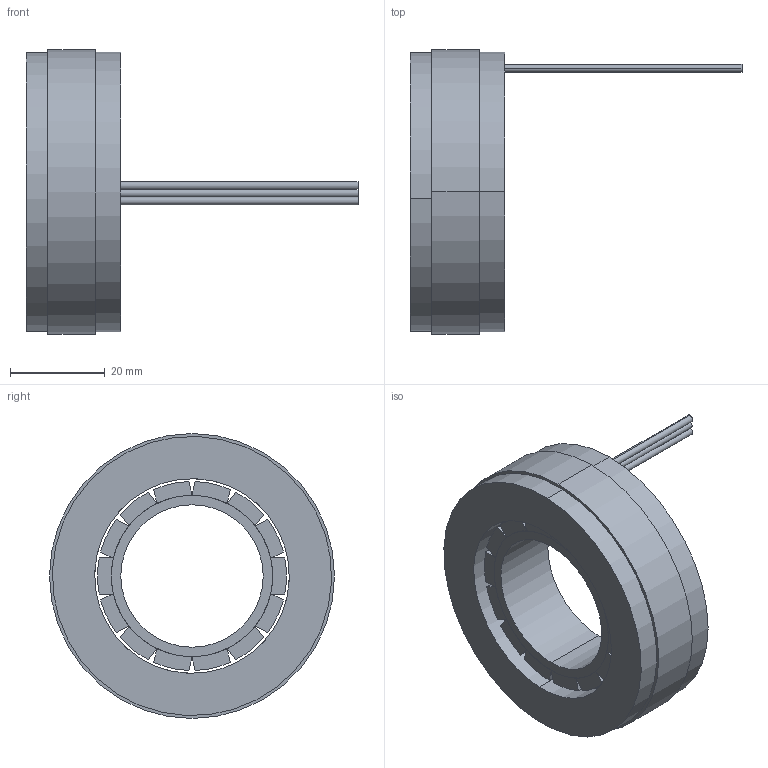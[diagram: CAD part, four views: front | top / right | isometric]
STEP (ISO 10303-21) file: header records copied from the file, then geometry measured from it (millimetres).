
FILE_DESCRIPTION (( 'STEP AP203' ), '1' );
FILE_NAME ('60LW07×°Åä.STEP', '2025-09-04T01:57:32', ( 'China' ), ( 'Microsoft' ), 'SwSTEP 2.0', 'SolidWorks 2017', '' );
FILE_SCHEMA (( 'CONFIG_CONTROL_DESIGN' ));
Length unit declared in the file: millimetre
Products named in the file (9): 60LW07蚾饜; 棠詩; 绕组出线端; 绕组非出线端; 蛌赽; 隅赽; 竘堤盄; 諾陑粣; 隅赽沺陑
Assembly tree (21 placements, depth 3):
  60LW07蚾饜
    隅赽
      隅赽沺陑
      绕组非出线端
      绕组出线端
      竘堤盄
    蛌赽
      諾陑粣
      棠詩  x14
Bounding box: 69.9 x 60 x 60 mm (x, y, z)
Volume: 36352 mm3; surface area: 23639.8 mm2
Topology: 21 solids, 21 shells, 120 faces, 234 edges, 156 vertices
Faces by surface type: plane 70, cylinder 50
Entity records: 2465 total; most frequent: DIRECTION 262, CARTESIAN_POINT 198, ORIENTED_EDGE 156, AXIS2_PLACEMENT_3D 116, PERSON_AND_ORGANIZATION 93, DATE_AND_TIME 87, LOCAL_TIME 87, CALENDAR_DATE 87
